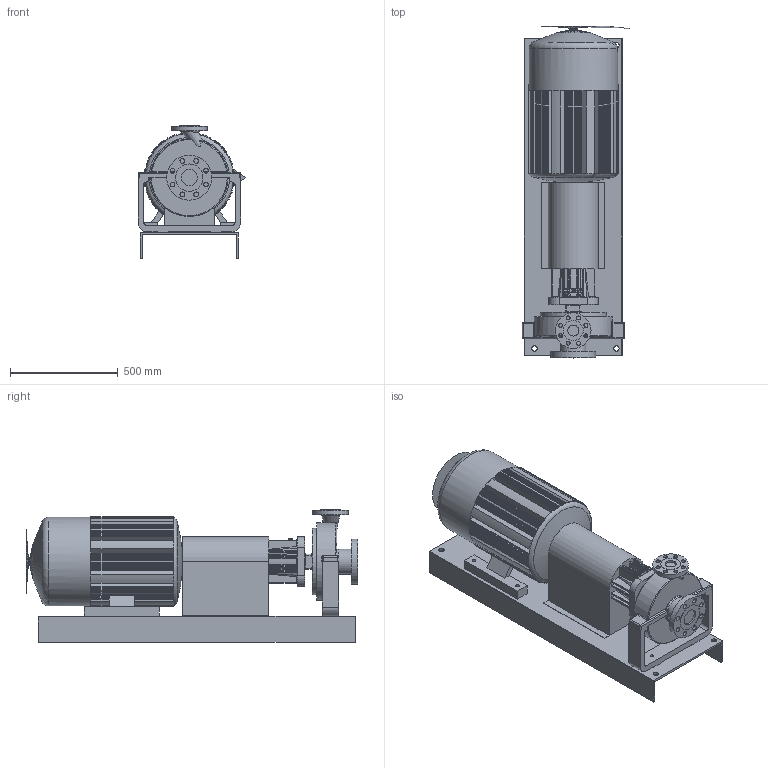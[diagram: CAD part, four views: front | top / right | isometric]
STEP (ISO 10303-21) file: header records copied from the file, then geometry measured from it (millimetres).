
FILE_DESCRIPTION(/* description */ ('Unknown'),/* implementation_level */ '2;1');
FILE_NAME(/* name */ 'CTP 2x3x10 364TS',/* time_stamp */ '2016-02-18T11:21:12+01:00',/* author */ ('Unknown'),/* organization */ ('Unknown'),/* preprocessor_version */ 'ST-DEVELOPER v16',/* originating_system */ 'DEX',/* authorisation */ $);
FILE_SCHEMA (('AUTOMOTIVE_DESIGN {1 0 10303 214 3 1 1}'));
Products named in the file (1): Maatschets3D CTP
Bounding box: 501.4 x 1543 x 615.95 mm (x, y, z)
Volume: 93906123.7 mm3; surface area: 7197727 mm2
Topology: 1 solids, 1 shells, 1651 faces, 4216 edges, 2523 vertices
Faces by surface type: plane 1156, cylinder 301, bspline 139, sphere 31, torus 22, cone 2
Full cylindrical faces by diameter (mm): 16 x2, 16.764 x4, 19.05 x8, 22.225 x8, 25 x4, 50.8 x1, 57.625 x1, 76.2 x1, 92.075 x1, 117 x1, 127 x1, 165.1 x1, 209.55 x1, 235 x1, 280 x1, 309 x1, 361 x1, 411.48 x1
Entity records: 67019 total; most frequent: CARTESIAN_POINT 16471, ORIENTED_EDGE 8156, DIRECTION 8059, EDGE_CURVE 4078, AXIS2_PLACEMENT_3D 2730, LINE 2599, VECTOR 2599, VERTEX_POINT 2493
